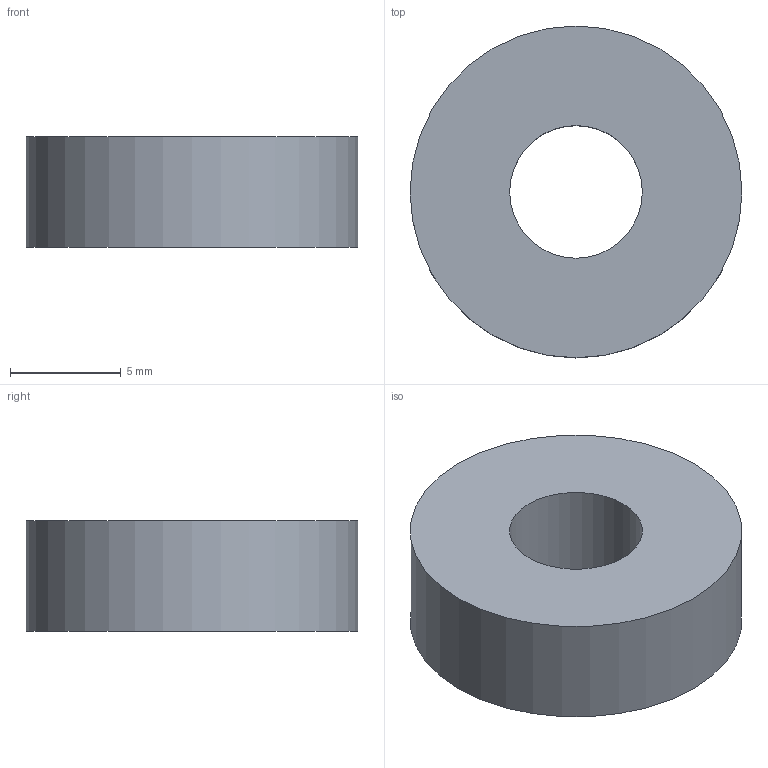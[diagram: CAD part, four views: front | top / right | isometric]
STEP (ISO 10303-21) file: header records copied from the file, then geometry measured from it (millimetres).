
FILE_DESCRIPTION(('Open CASCADE Model'),'2;1');
FILE_NAME('Open CASCADE Shape Model','2026-09-10T23:36:51',('Author'),( 'Open CASCADE'),'Open CASCADE STEP processor 7.9','Open CASCADE 7.9' ,'Unknown');
FILE_SCHEMA(('AUTOMOTIVE_DESIGN { 1 0 10303 214 1 1 1 1 }'));
Length unit declared in the file: millimetre
Products named in the file (1): Open CASCADE STEP translator 7.9 21
Bounding box: 15 x 15 x 5 mm (x, y, z)
Volume: 742.2 mm3; surface area: 626.7 mm2
Topology: 1 solids, 1 shells, 4 faces, 6 edges, 4 vertices
Faces by surface type: cylinder 2, plane 2
Full cylindrical faces by diameter (mm): 6 x1, 15 x1
Entity records: 189 total; most frequent: CARTESIAN_POINT 33, DIRECTION 31, ORIENTED_EDGE 12, PCURVE 12, DEFINITIONAL_REPRESENTATION 12, LINE 10, VECTOR 10, AXIS2_PLACEMENT_3D 9
